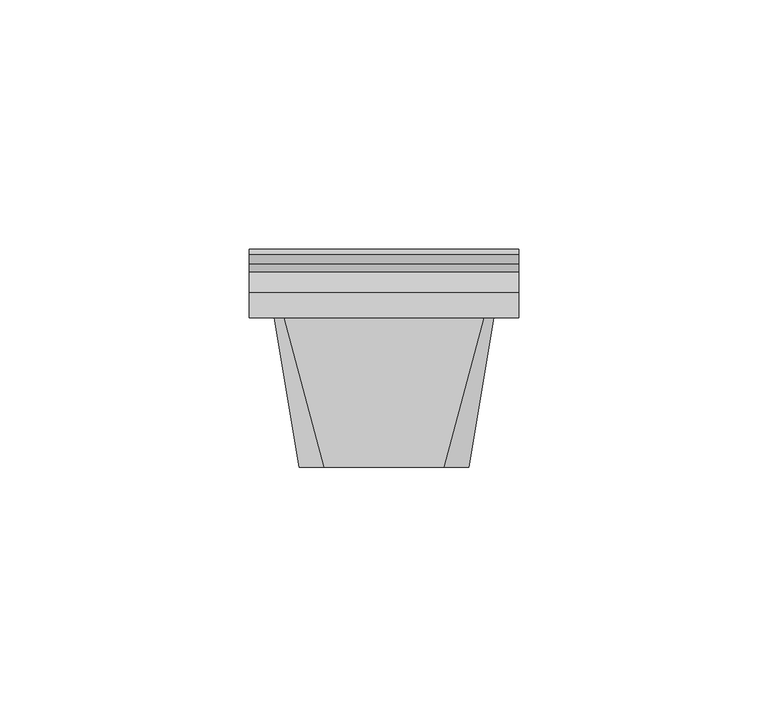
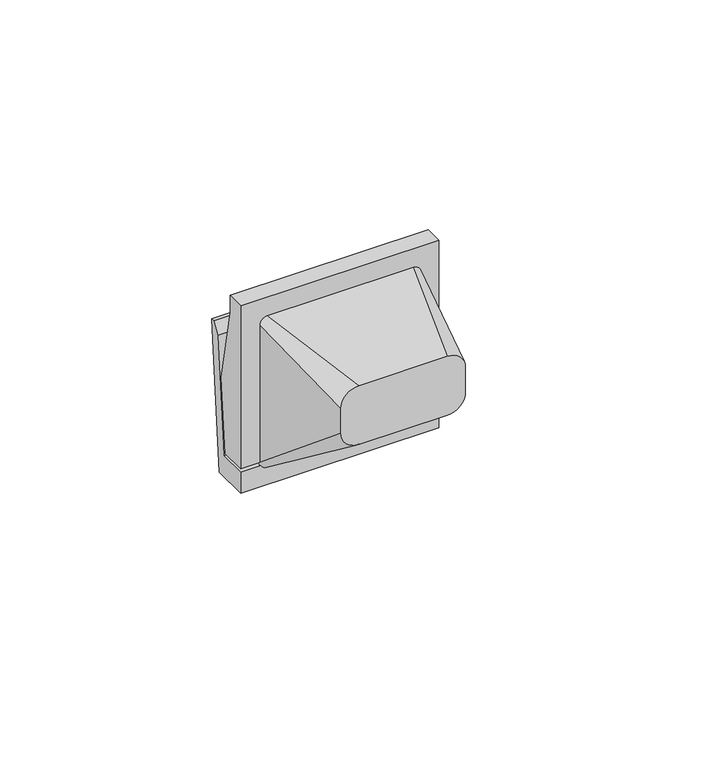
"""IFC4 building model written with IfcOpenShell, lengths in millimetres: proxy geometry, IEK_Brite_Механизм выключателя : ВК_ВС10-1-8-БрА."""

from ifc_helpers import new_model, si_unit, frame, origin, place, context, project, spatial, polyline, circle_curve, outline, extrude, source, transform, mapped, element, save
from ifc_brep_helpers import plane_surface, spline_surface, advanced_brep


def electrical_fixtures_2a4b2461(model_context):
    return source(origin(), model_context, "Body", "SolidModel", [
        extrude(outline(polyline([(0.0, 0.0), (2.785732, -1e-07), (2.785732, -2.785732), (0.0, 0.0)])), frame((1.96981, 13.4005543, 6.1316569), z_axis=(0.0, -0.9961946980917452, 0.08715574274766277), x_axis=(-0.7071067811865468, -0.06162841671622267, -0.7044160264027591)), (0.0, 0.0, 1.0), 0.5),
        extrude(outline(polyline([(0.0, -21.0), (7.8895282, -21.0), (10.7752629, 11.9840984), (12.7029652, 15.0472819), (13.671249, 14.9625681), (10.0, -27.0), (0.0, -27.0), (0.0, -21.0)])), frame((-27.0, 0.0, 0.0), z_axis=(1.0, 0.0, 0.0), x_axis=(0.0, 1.0, 0.0)), (0.0, 0.0, 1.0), 54.0),
        extrude(outline(polyline([(5.0, 27.0), (5.0, 22.0), (9.0854614, 0.9821231), (7.2497635, -20.0), (0.0, -20.0), (0.0, 27.0), (5.0, 27.0)])), frame((-27.0, 0.0, 0.0), z_axis=(1.0, 0.0, 0.0), x_axis=(0.0, 1.0, 0.0)), (0.0, 0.0, 1.0), 54.0),
        advanced_brep(
        [(-12.0, -30.0, 17.0), (-17.0, -30.0, 12.0), (-17.0, -30.0, 5.0), (-12.0, -30.0, 0.0), (12.0, -30.0, 0.0), (17.0, -30.0, 5.0), (17.0, -30.0, 12.0), (12.0, -30.0, 17.0), (20.0, 0.0, 22.0), (22.0, 0.0, 20.0), (22.0, 0.0, -20.0), (20.0, 0.0, -22.0), (-20.0, 0.0, -22.0), (-22.0, 0.0, -20.0), (-22.0, 0.0, 20.0), (-20.0, 0.0, 22.0), (20.0, 4.4942733, -3.0892494), (-20.0, 4.4942733, -3.0892494)],
        [
            (0, 1, circle_curve(frame((-12.0, -30.0, 12.0), z_axis=(0.0, -1.0, 0.0), x_axis=(1.0, 0.0, 0.0)), 5.0)),
            (1, 2),
            (2, 3, circle_curve(frame((-12.0, -30.0, 5.0), z_axis=(0.0, -1.0, 0.0), x_axis=(1.0, 0.0, 0.0)), 5.0)),
            (3, 4),
            (4, 5, circle_curve(frame((12.0, -30.0, 5.0), z_axis=(0.0, -1.0, 0.0), x_axis=(1.0, 0.0, 0.0)), 5.0)),
            (5, 6),
            (6, 7, circle_curve(frame((12.0, -30.0, 12.0), z_axis=(0.0, -1.0, 0.0), x_axis=(1.0, 0.0, 0.0)), 5.0)),
            (7, 0),
            (8, 9, circle_curve(frame((20.0, 0.0, 20.0), z_axis=(0.0, 1.0, 0.0), x_axis=(1.0, 0.0, 0.0)), 2.0)),
            (9, 10),
            (10, 11, circle_curve(frame((20.0, 0.0, -20.0), z_axis=(0.0, 1.0, 0.0), x_axis=(1.0, 0.0, 0.0)), 2.0)),
            (11, 8),
            (12, 13, circle_curve(frame((-20.0, 0.0, -20.0), z_axis=(0.0, 1.0, 0.0), x_axis=(1.0, 0.0, 0.0)), 2.0)),
            (13, 14),
            (14, 15, circle_curve(frame((-20.0, 0.0, 20.0), z_axis=(0.0, 1.0, 0.0), x_axis=(1.0, 0.0, 0.0)), 2.0)),
            (15, 12),
            (7, 8),
            (8, 15),
            (15, 0),
            (6, 9),
            (5, 10),
            (4, 11),
            (3, 12),
            (12, 11),
            (2, 13),
            (1, 14),
            (11, 16),
            (16, 8),
            (15, 17),
            (17, 12),
            (17, 16),
        ],
        [
            plane_surface(frame((0.0, -30.0, 8.5), z_axis=(0.0, -1.0, 0.0), x_axis=(-1.0, 0.0, 0.0))),
            plane_surface(frame((0.0, 0.0, 0.0), z_axis=(0.0, 1.0, 0.0), x_axis=(-1.0, 0.0, 0.0))),
            plane_surface(frame((0.0, 0.0, 22.0), z_axis=(0.0, -0.16439898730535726, 0.9863939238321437), x_axis=(-1.0, 0.0, 0.0))),
            spline_surface(2, 1, [[(22.0, 0.0, 20.0), (17.0, -30.0, 12.0)], [(22.0, 0.0, 22.0), (17.0, -30.0, 17.0)], [(20.0, 0.0, 22.0), (12.0, -30.0, 17.0)]], [3, 3], [2, 2], [0.0, 1.0], [0.0, 1.0], weights=[[1.0, 1.0], [0.7071067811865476, 0.7071067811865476], [1.0, 1.0]]),
            plane_surface(frame((22.0, 0.0, 0.0), z_axis=(0.9863939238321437, -0.1643989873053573, 0.0), x_axis=(0.0, 0.0, 1.0))),
            spline_surface(2, 1, [[(20.0, 0.0, -22.0), (12.0, -30.0, 0.0)], [(22.0, 0.0, -22.0), (17.0, -30.0, 0.0)], [(22.0, 0.0, -20.0), (17.0, -30.0, 5.0)]], [3, 3], [2, 2], [0.0, 1.0], [0.0, 1.0], weights=[[1.0, 1.0], [0.7071067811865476, 0.7071067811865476], [1.0, 1.0]]),
            plane_surface(frame((0.0, 0.0, -22.0), z_axis=(0.0, -0.591363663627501, -0.8064049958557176), x_axis=(1.0, 0.0, 0.0))),
            spline_surface(2, 1, [[(-22.0, 0.0, -20.0), (-17.0, -30.0, 5.0)], [(-22.0, 0.0, -22.0), (-17.0, -30.0, 0.0)], [(-20.0, 0.0, -22.0), (-12.0, -30.0, 0.0)]], [3, 3], [2, 2], [0.0, 1.0], [0.0, 1.0], weights=[[1.0, 1.0], [0.7071067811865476, 0.7071067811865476], [1.0, 1.0]]),
            plane_surface(frame((-22.0, 0.0, 0.0), z_axis=(-0.9863939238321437, -0.1643989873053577, 0.0), x_axis=(0.0, 0.0, -1.0))),
            spline_surface(2, 1, [[(-20.0, 0.0, 22.0), (-12.0, -30.0, 17.0)], [(-22.0, 0.0, 22.0), (-17.0, -30.0, 17.0)], [(-22.0, 0.0, 20.0), (-17.0, -30.0, 12.0)]], [3, 3], [2, 2], [0.0, 1.0], [0.0, 1.0], weights=[[1.0, 1.0], [0.7071067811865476, 0.7071067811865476], [1.0, 1.0]]),
            plane_surface(frame((20.0, 0.0, -22.0), z_axis=(1.0, 0.0, 0.0), x_axis=(0.0, 0.23121707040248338, 0.9729021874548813))),
            plane_surface(frame((-20.0, 0.0, -22.0), z_axis=(-1.0, 0.0, 0.0), x_axis=(0.0, -0.23121707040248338, -0.9729021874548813))),
            plane_surface(frame((20.0, 0.0, -22.0), z_axis=(0.0, 0.9729021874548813, -0.23121707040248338), x_axis=(-1.0, 0.0, 0.0))),
            plane_surface(frame((20.0, 4.4942733, -3.0892494), z_axis=(0.0, 0.9843320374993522, 0.17632481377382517), x_axis=(-1.0, 0.0, 0.0))),
        ],
        [
            (0, [[1, 2, 3, 4, 5, 6, 7, 8]]),
            (1, [[9, 10, 11, 12]]),
            (1, [[13, 14, 15, 16]]),
            (2, [[-8, 17, 18, 19]]),
            (3, [[-7, 20, -9, -17]]),
            (4, [[-6, 21, -10, -20]]),
            (5, [[-5, 22, -11, -21]]),
            (6, [[-4, 23, 24, -22]]),
            (7, [[-3, 25, -13, -23]]),
            (8, [[-2, 26, -14, -25]]),
            (9, [[-1, -19, -15, -26]]),
            (10, [[27, 28, -12]]),
            (11, [[29, 30, -16]]),
            (12, [[-27, -24, -30, 31]]),
            (13, [[-28, -31, -29, -18]]),
        ],
    ),
    ])


if __name__ == "__main__":
    model = new_model("IFC4")
    model_context = context("Model", 3, world=origin())
    ifc_project = project(units=[si_unit("LENGTHUNIT", "METRE", prefix="MILLI")], contexts=[model_context])
    site = spatial("IfcSite", under=ifc_project)
    building = spatial("IfcBuilding", under=site)
    placement = place(None, origin())
    electrical_fixtures_shape = electrical_fixtures_2a4b2461(model_context)
    element("IfcBuildingElementProxy", 1, Name="IEK_Brite_Механизм выключателя : ВК_ВС10-1-8-БрА", ObjectType="IEK_Brite_Механизм выключателя : ВК_ВС10-1-8-БрА", at=placement, inside=building, context=model_context, shape_type="MappedRepresentation", body=[
        mapped(electrical_fixtures_shape, transform((0.0, 0.0, 0.0), x_axis=(1.0, 0.0, 0.0), y_axis=(0.0, 1.0, 0.0), z_axis=(0.0, 0.0, 1.0))),
    ])
    save(model, "model.ifc")
